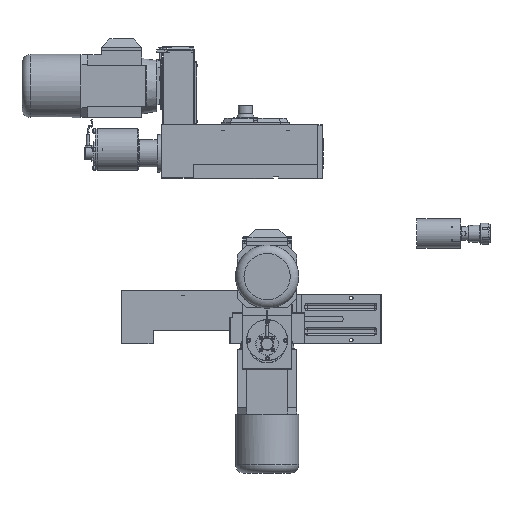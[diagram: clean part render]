
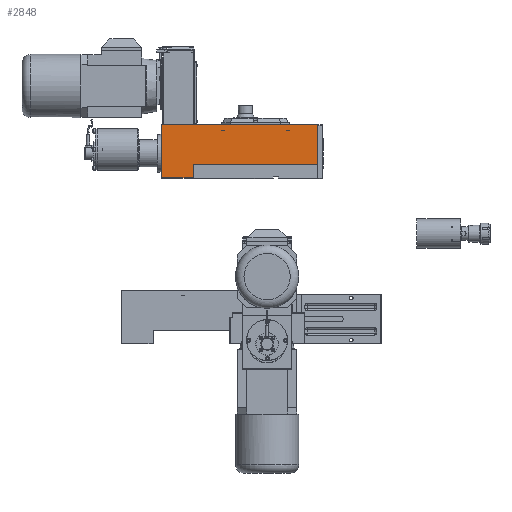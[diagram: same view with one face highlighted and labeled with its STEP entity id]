
A CAD part, front view. The second image highlights one B-rep face of the part: STEP entity #2848.
In plain terms, the highlighted planar face has unit normal (0, -1, 0).
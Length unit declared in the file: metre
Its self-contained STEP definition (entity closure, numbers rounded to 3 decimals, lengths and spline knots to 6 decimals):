
#2848 = ADVANCED_FACE( '', ( #4159 ), #4160, .T. );
#4159 = FACE_OUTER_BOUND( '', #6671, .T. );
#4160 = PLANE( '', #6672 );
#6671 = EDGE_LOOP( '', ( #10636, #10637, #10638, #10639, #10640, #10641 ) );
#6672 = AXIS2_PLACEMENT_3D( '', #10642, #10643, #10644 );
#10636 = ORIENTED_EDGE( '', *, *, #17545, .F. );
#10637 = ORIENTED_EDGE( '', *, *, #17582, .F. );
#10638 = ORIENTED_EDGE( '', *, *, #17583, .F. );
#10639 = ORIENTED_EDGE( '', *, *, #17584, .F. );
#10640 = ORIENTED_EDGE( '', *, *, #17563, .T. );
#10641 = ORIENTED_EDGE( '', *, *, #17548, .T. );
#10642 = CARTESIAN_POINT( '', ( 0.025, -0.019444, 0. ) );
#10643 = DIRECTION( '', ( 0., -1., 0. ) );
#10644 = DIRECTION( '', ( 0., 0., -1. ) );
#17545 = EDGE_CURVE( '', #19870, #19868, #19872, .T. );
#17548 = EDGE_CURVE( '', #19877, #19868, #19878, .T. );
#17563 = EDGE_CURVE( '', #19904, #19877, #19905, .T. );
#17582 = EDGE_CURVE( '', #19940, #19870, #19941, .T. );
#17583 = EDGE_CURVE( '', #19845, #19940, #19942, .T. );
#17584 = EDGE_CURVE( '', #19904, #19845, #19943, .T. );
#19845 = VERTEX_POINT( '', #24065 );
#19868 = VERTEX_POINT( '', #24099 );
#19870 = VERTEX_POINT( '', #24102 );
#19872 = LINE( '', #24105, #24106 );
#19877 = VERTEX_POINT( '', #24111 );
#19878 = LINE( '', #24112, #24113 );
#19904 = VERTEX_POINT( '', #24150 );
#19905 = LINE( '', #24151, #24152 );
#19940 = VERTEX_POINT( '', #24197 );
#19941 = LINE( '', #24198, #24199 );
#19942 = LINE( '', #24200, #24201 );
#19943 = LINE( '', #24202, #24203 );
#24065 = CARTESIAN_POINT( '', ( -0.3465, -0.019444, 0.0005 ) );
#24099 = CARTESIAN_POINT( '', ( 0.0245, -0.019444, 0.032 ) );
#24102 = CARTESIAN_POINT( '', ( 0.0245, -0.019444, 0.1265 ) );
#24105 = CARTESIAN_POINT( '', ( 0.0245, -0.019444, 0. ) );
#24106 = VECTOR( '', #30602, 1. );
#24111 = CARTESIAN_POINT( '', ( -0.271, -0.019444, 0.032 ) );
#24112 = CARTESIAN_POINT( '', ( -0.049, -0.019444, 0.032 ) );
#24113 = VECTOR( '', #30609, 1. );
#24150 = CARTESIAN_POINT( '', ( -0.271, -0.019444, 0.0005 ) );
#24151 = CARTESIAN_POINT( '', ( -0.271, -0.019444, 0. ) );
#24152 = VECTOR( '', #30630, 1. );
#24197 = CARTESIAN_POINT( '', ( -0.3465, -0.019444, 0.1265 ) );
#24198 = CARTESIAN_POINT( '', ( -0.068, -0.019444, 0.1265 ) );
#24199 = VECTOR( '', #30665, 1. );
#24200 = CARTESIAN_POINT( '', ( -0.3465, -0.019444, 0. ) );
#24201 = VECTOR( '', #30666, 1. );
#24202 = CARTESIAN_POINT( '', ( -0.068, -0.019444, 0.0005 ) );
#24203 = VECTOR( '', #30667, 1. );
#30602 = DIRECTION( '', ( 0., 0., -1. ) );
#30609 = DIRECTION( '', ( 1., 0., 0. ) );
#30630 = DIRECTION( '', ( 0., 0., 1. ) );
#30665 = DIRECTION( '', ( 1., 0., 0. ) );
#30666 = DIRECTION( '', ( 0., 0., 1. ) );
#30667 = DIRECTION( '', ( -1., 0., 0. ) );
